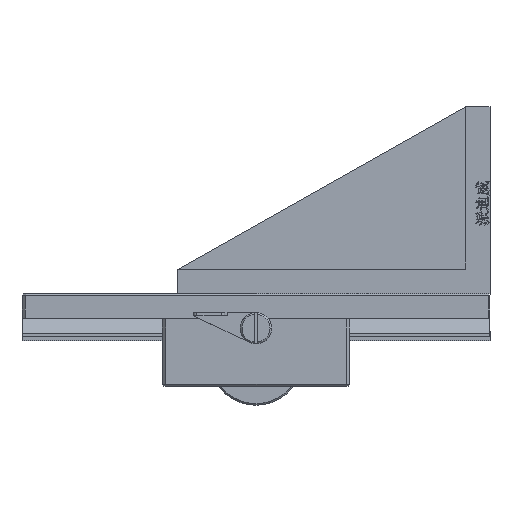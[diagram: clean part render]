
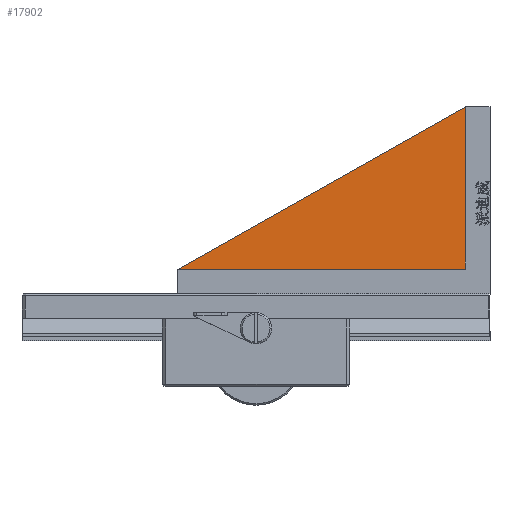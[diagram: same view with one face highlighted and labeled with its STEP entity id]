
A CAD part, top view. The second image highlights one B-rep face of the part: STEP entity #17902.
In plain terms, the highlighted planar face has unit normal (0, 0, 1).
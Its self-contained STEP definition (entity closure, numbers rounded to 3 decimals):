
#921 = VERTEX_POINT ( 'NONE', #3669 ) ;
#1063 = DIRECTION ( 'NONE',  ( 0., 0., 1. ) ) ;
#2908 = LINE ( 'NONE', #21286, #25161 ) ;
#3278 = CARTESIAN_POINT ( 'NONE',  ( 50., 64., 4. ) ) ;
#3669 = CARTESIAN_POINT ( 'NONE',  ( 42., 64., 4. ) ) ;
#4371 = ORIENTED_EDGE ( 'NONE', *, *, #21081, .T. ) ;
#4602 = DIRECTION ( 'NONE',  ( 1., 0., 0. ) ) ;
#4881 = CARTESIAN_POINT ( 'NONE',  ( -50., 12., 4. ) ) ;
#5819 = DIRECTION ( 'NONE',  ( 0., 1., 0. ) ) ;
#6576 = ORIENTED_EDGE ( 'NONE', *, *, #18043, .T. ) ;
#8128 = CARTESIAN_POINT ( 'NONE',  ( 42., 12., 4. ) ) ;
#8243 = VECTOR ( 'NONE', #4602, 1000. ) ;
#8408 = DIRECTION ( 'NONE',  ( 0.871, 0.492, 0. ) ) ;
#10075 = VERTEX_POINT ( 'NONE', #15272 ) ;
#12330 = CARTESIAN_POINT ( 'NONE',  ( 42., 12., 4. ) ) ;
#13875 = VECTOR ( 'NONE', #5819, 1000. ) ;
#13959 = PLANE ( 'NONE',  #15089 ) ;
#15089 = AXIS2_PLACEMENT_3D ( 'NONE', #3278, #1063, #24866 ) ;
#15272 = CARTESIAN_POINT ( 'NONE',  ( -50., 12., 4. ) ) ;
#16826 = EDGE_LOOP ( 'NONE', ( #6576, #4371, #18618 ) ) ;
#17675 = FACE_OUTER_BOUND ( 'NONE', #16826, .T. ) ;
#17902 = ADVANCED_FACE ( 'NONE', ( #17675 ), #13959, .T. ) ;
#18043 = EDGE_CURVE ( 'NONE', #10075, #24742, #24112, .T. ) ;
#18618 = ORIENTED_EDGE ( 'NONE', *, *, #22209, .F. ) ;
#19619 = LINE ( 'NONE', #12330, #13875 ) ;
#21081 = EDGE_CURVE ( 'NONE', #24742, #921, #19619, .T. ) ;
#21286 = CARTESIAN_POINT ( 'NONE',  ( 42., 64., 4. ) ) ;
#22209 = EDGE_CURVE ( 'NONE', #10075, #921, #2908, .T. ) ;
#24112 = LINE ( 'NONE', #4881, #8243 ) ;
#24742 = VERTEX_POINT ( 'NONE', #8128 ) ;
#24866 = DIRECTION ( 'NONE',  ( 1., 0., 0. ) ) ;
#25161 = VECTOR ( 'NONE', #8408, 1000. ) ;
